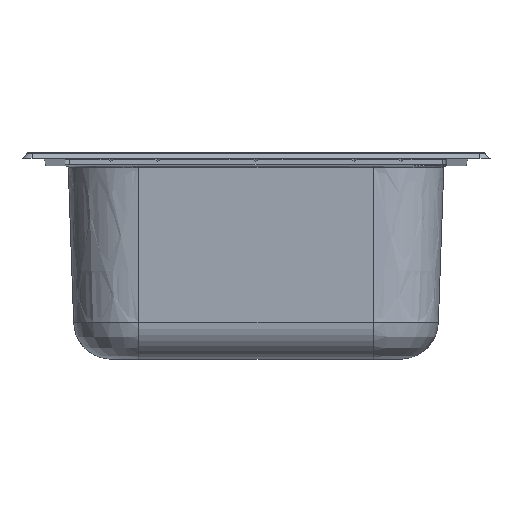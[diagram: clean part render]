
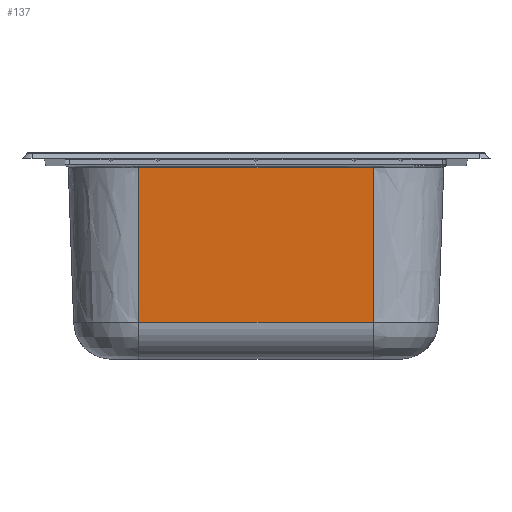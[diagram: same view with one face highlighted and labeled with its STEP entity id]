
A CAD part, left-side view. The second image highlights one B-rep face of the part: STEP entity #137.
In plain terms, the highlighted planar face has unit normal (-0.999, 0, -0.035).
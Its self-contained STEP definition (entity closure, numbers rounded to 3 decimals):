
#137=ADVANCED_FACE('',(#359),#360,.T.);
#359=FACE_OUTER_BOUND('',#1108,.T.);
#360=PLANE('',#1109);
#1108=EDGE_LOOP('',(#5063,#5064,#5065,#5066));
#1109=AXIS2_PLACEMENT_3D('',#5067,#5068,#5069);
#5063=ORIENTED_EDGE('',*,*,#6574,.T.);
#5064=ORIENTED_EDGE('',*,*,#6575,.T.);
#5065=ORIENTED_EDGE('',*,*,#6550,.T.);
#5066=ORIENTED_EDGE('',*,*,#6573,.F.);
#5067=CARTESIAN_POINT('',(-167.086,0.001,-96.621));
#5068=DIRECTION('',(-0.999,0.0,-0.035));
#5069=DIRECTION('',(-0.035,0.0,0.999));
#6550=EDGE_CURVE('',#7096,#7091,#7099,.T.);
#6573=EDGE_CURVE('',#7133,#7091,#7135,.T.);
#6574=EDGE_CURVE('',#7133,#7136,#7137,.T.);
#6575=EDGE_CURVE('',#7136,#7096,#7138,.T.);
#7091=VERTEX_POINT('',#8028);
#7096=VERTEX_POINT('',#8066);
#7099=LINE('',#8070,#8071);
#7133=VERTEX_POINT('',#8173);
#7135=B_SPLINE_CURVE_WITH_KNOTS('',1,(#8213,#8214),.UNSPECIFIED.,.F.,.F.,(2,2),(38.628,204.015),.UNSPECIFIED.);
#7136=VERTEX_POINT('',#8215);
#7137=LINE('',#8216,#8217);
#7138=LINE('',#8218,#8219);
#8028=CARTESIAN_POINT('',(-170.602,125.091,4.07));
#8066=CARTESIAN_POINT('',(-170.602,-125.089,4.07));
#8070=CARTESIAN_POINT('',(-170.602,0.001,4.07));
#8071=VECTOR('',#10455,1.0);
#8173=CARTESIAN_POINT('',(-164.83,125.091,-161.217));
#8213=CARTESIAN_POINT('',(-164.83,125.091,-161.217));
#8214=CARTESIAN_POINT('',(-170.602,125.091,4.07));
#8215=CARTESIAN_POINT('',(-164.83,-125.089,-161.217));
#8216=CARTESIAN_POINT('',(-164.83,0.001,-161.217));
#8217=VECTOR('',#10473,1.0);
#8218=CARTESIAN_POINT('',(-167.716,-125.089,-78.574));
#8219=VECTOR('',#10474,1.0);
#10455=DIRECTION('',(0.0,1.0,0.0));
#10473=DIRECTION('',(0.0,-1.0,0.0));
#10474=DIRECTION('',(-0.035,0.0,0.999));
